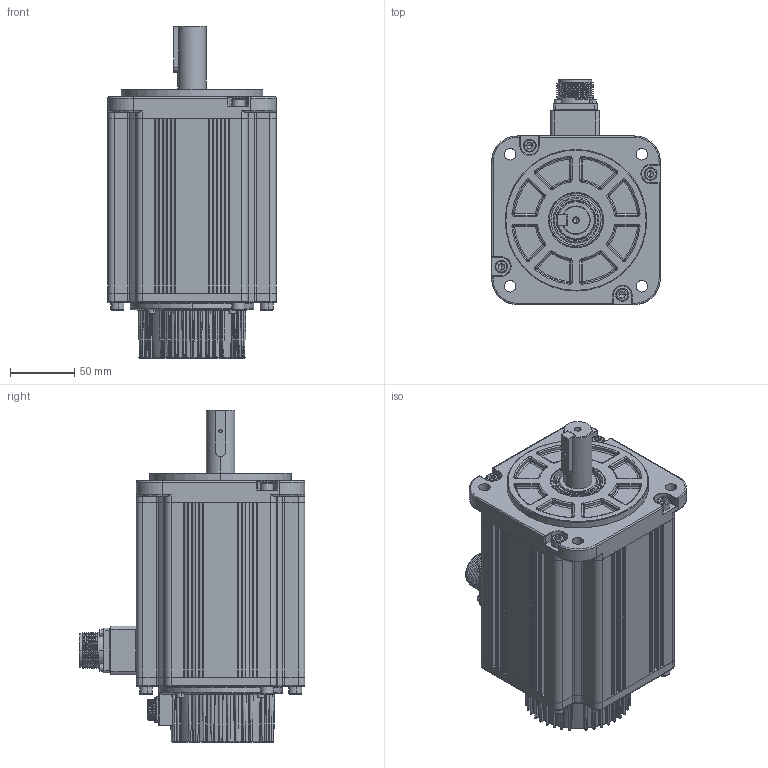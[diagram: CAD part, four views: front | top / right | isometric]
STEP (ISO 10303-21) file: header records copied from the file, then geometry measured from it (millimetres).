
FILE_DESCRIPTION (( 'STEP AP214' ), '1' );
FILE_NAME ('V7E-M13A-2R315-D1.STEP', '2021-08-09T07:07:24', ( '' ), ( '' ), 'SwSTEP 2.0', 'SolidWorks 2014', '' );
FILE_SCHEMA (( 'AUTOMOTIVE_DESIGN' ));
Length unit declared in the file: millimetre
Products named in the file (18): 囀鞠褒 M3X30; SC瑤諾脣芛 16M-9H; 蚐猾 D00B999YF7-TC 30-42-7; 雄薯瑤脣釱200909; 綴傷裔200903-4晚源倛; 坋趼攫芛 M2X8; 零件1^V7-130#电机组件（不带刹车）200927; 130陔ヶ傷裔200917; SC瑤諾脣芛 CMS3102A18-10P-Z; SC晤鎢ん欶200908_9郋; 粣200907; 囀鞠褒 M6X20; V7-130#转子组件（不带刹车）; 130陔ヶ傷裔200902; V7-130#定子组件（不带刹车）; 囀鞠褒 M3X10; 儂褲200901; V7E-M13A-2R315-D1
Assembly tree (33 placements, depth 4):
  V7E-M13A-2R315-D1
    V7-130#定子组件（不带刹车）
      囀鞠褒 M6X20  x4
      130陔ヶ傷裔200917
        130陔ヶ傷裔200902
    V7-130#转子组件（不带刹车）
      粣200907
    SC瑤諾脣芛 16M-9H
    囀鞠褒 M6X20  x4
    SC晤鎢ん欶200908_9郋
    囀鞠褒 M3X10  x4
    坋趼攫芛 M2X8  x4
    蚐猾 D00B999YF7-TC 30-42-7
    零件1^V7-130#电机组件（不带刹车）200927
    綴傷裔200903-4晚源倛
    儂褲200901
    SC瑤諾脣芛 CMS3102A18-10P-Z
    雄薯瑤脣釱200909
    囀鞠褒 M3X30  x4
Bounding box: 131 x 175.4 x 258 mm (x, y, z)
Volume: 900856.5 mm3; surface area: 340470.3 mm2
Topology: 30 solids, 30 shells, 2910 faces, 6962 edges, 4001 vertices
Faces by surface type: cylinder 1032, bspline 933, plane 684, cone 225, torus 32, sphere 4
Entity records: 134948 total; most frequent: CARTESIAN_POINT 57264, ORIENTED_EDGE 11686, DIRECTION 9842, EDGE_CURVE 5843, AXIS2_PLACEMENT_3D 3967, VERTEX_POINT 3440, EDGE_LOOP 2695, ADVANCED_FACE 2513
